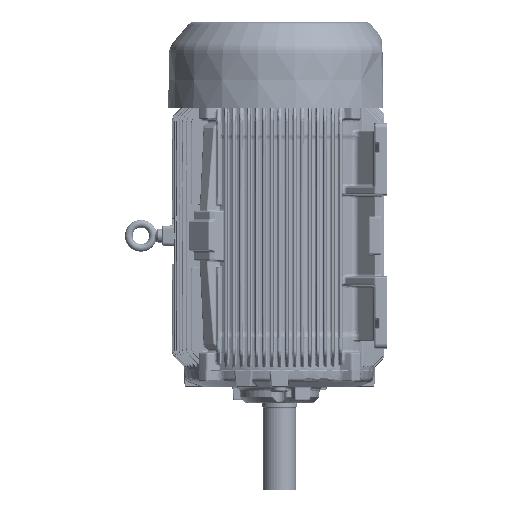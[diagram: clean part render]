
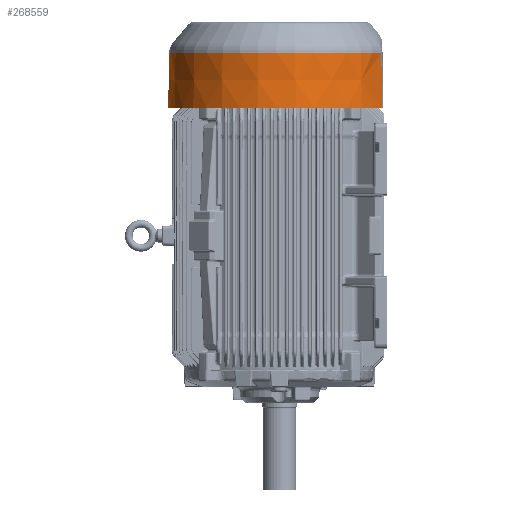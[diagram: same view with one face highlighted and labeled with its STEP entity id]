
A CAD part, left-side view. The second image highlights one B-rep face of the part: STEP entity #268559.
In plain terms, the highlighted conical face has half-angle 1 degrees and reference radius 288.053 mm.
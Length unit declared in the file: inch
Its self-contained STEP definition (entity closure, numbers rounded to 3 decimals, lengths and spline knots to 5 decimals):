
#261610=CARTESIAN_POINT('',(-4.4053,-10.50316,0.));
#261622=CARTESIAN_POINT('',(4.4053,-10.50316,0.));
#261628=CARTESIAN_POINT('',(-4.38861,-10.40404,
-5.60515));
#261629=CARTESIAN_POINT('',(-4.38989,-10.41162,
-5.17622));
#261630=CARTESIAN_POINT('',(-4.3925,-10.42706,
-4.30305));
#261631=CARTESIAN_POINT('',(-4.39649,-10.45079,
-2.96156));
#261632=CARTESIAN_POINT('',(-4.4007,-10.47582,
-1.54612));
#261633=CARTESIAN_POINT('',(-4.40373,-10.49385,
-0.52655));
#261634=CARTESIAN_POINT('',(-4.4053,-10.50316,0.));
#261636=CARTESIAN_POINT('',(-4.38861,-10.40404,
-5.60515));
#261637=CARTESIAN_POINT('',(-4.38884,-10.40394,
-5.60527));
#261638=CARTESIAN_POINT('',(-4.38935,-10.40372,
-5.60548));
#261639=CARTESIAN_POINT('',(-4.39028,-10.40332,
-5.6058));
#261640=CARTESIAN_POINT('',(-4.39142,-10.40283,
-5.60605));
#261641=CARTESIAN_POINT('',(-4.39279,-10.40225,
-5.60622));
#261642=CARTESIAN_POINT('',(-4.3939,-10.40178,
-5.60627));
#261643=CARTESIAN_POINT('',(-4.3945,-10.40153,
-5.60627));
#261645=CARTESIAN_POINT('',(0.,0.,-5.60627));
#261646=DIRECTION('',(0.,0.,-1.));
#261647=DIRECTION('',(-0.389,-0.921,0.));
#261648=AXIS2_PLACEMENT_3D('',#261645,#261646,#261647);
#261650=CARTESIAN_POINT('',(4.38861,-10.40404,
-5.60515));
#261651=CARTESIAN_POINT('',(4.38883,-10.40394,
-5.60528));
#261652=CARTESIAN_POINT('',(4.38935,-10.40372,
-5.60549));
#261653=CARTESIAN_POINT('',(4.39028,-10.40332,
-5.60581));
#261654=CARTESIAN_POINT('',(4.39143,-10.40283,
-5.60606));
#261655=CARTESIAN_POINT('',(4.39278,-10.40226,
-5.60623));
#261656=CARTESIAN_POINT('',(4.39395,-10.40176,
-5.60627));
#261657=CARTESIAN_POINT('',(4.39444,-10.40156,
-5.60627));
#261659=CARTESIAN_POINT('',(4.4053,-10.50316,0.));
#261660=CARTESIAN_POINT('',(4.40402,-10.49554,
-0.43077));
#261661=CARTESIAN_POINT('',(4.40142,-10.48005,
-1.30686));
#261662=CARTESIAN_POINT('',(4.39742,-10.45633,
-2.64795));
#261663=CARTESIAN_POINT('',(4.3932,-10.43125,
-4.0661));
#261664=CARTESIAN_POINT('',(4.39017,-10.4133,
-5.08152));
#261665=CARTESIAN_POINT('',(4.38861,-10.40404,
-5.60515));
#261667=CARTESIAN_POINT('',(0.,0.,0.));
#261668=DIRECTION('',(0.,0.,1.));
#261669=DIRECTION('',(0.387,-0.922,0.));
#261670=AXIS2_PLACEMENT_3D('',#261667,#261668,#261669);
#266364=VERTEX_POINT('',#261610);
#266367=VERTEX_POINT('',#261628);
#266374=VERTEX_POINT('',#261622);
#266375=VERTEX_POINT('',#261665);
#266376=CARTESIAN_POINT('',(-4.3945,-10.40153,
-5.60627));
#266377=CARTESIAN_POINT('',(4.39429,-10.40162,
-5.60627));
#266378=VERTEX_POINT('',#266376);
#266379=VERTEX_POINT('',#266377);
#268544=CARTESIAN_POINT('',(0.,0.,-2.80313));
#268545=DIRECTION('',(0.,0.,1.));
#268546=DIRECTION('',(0.,1.,0.));
#268547=AXIS2_PLACEMENT_3D('',#268544,#268545,#268546);
#268548=CONICAL_SURFACE('',#268547,11.34067,1.);
#268549=ORIENTED_EDGE('',*,*,#268525,.F.);
#268550=ORIENTED_EDGE('',*,*,#268389,.T.);
#268551=ORIENTED_EDGE('',*,*,#268407,.T.);
#268553=ORIENTED_EDGE('',*,*,#268552,.F.);
#268555=ORIENTED_EDGE('',*,*,#268554,.F.);
#268556=ORIENTED_EDGE('',*,*,#268536,.T.);
#268557=EDGE_LOOP('',(#268549,#268550,#268551,#268553,#268555,#268556));
#268558=FACE_OUTER_BOUND('',#268557,.F.);
#268559=ADVANCED_FACE('',(#268558),#268548,.T.);
#261635=B_SPLINE_CURVE_WITH_KNOTS('',3,(#261628,#261629,#261630,#261631,#261632,
#261633,#261634),.UNSPECIFIED.,.F.,.F.,(4,1,1,1,4),(0.,0.25,0.5,0.75,
1.),.UNSPECIFIED.);
#261644=B_SPLINE_CURVE_WITH_KNOTS('',3,(#261636,#261637,#261638,#261639,#261640,
#261641,#261642,#261643),.UNSPECIFIED.,.F.,.F.,(4,1,1,1,1,4),(0.,0.2,0.4,
0.6,0.8,1.),.UNSPECIFIED.);
#261649=CIRCLE('',#261648,11.29174);
#261658=B_SPLINE_CURVE_WITH_KNOTS('',3,(#261650,#261651,#261652,#261653,#261654,
#261655,#261656,#261657),.UNSPECIFIED.,.F.,.F.,(4,1,1,1,1,4),(0.,0.2,0.4,
0.6,0.8,1.),.UNSPECIFIED.);
#261666=B_SPLINE_CURVE_WITH_KNOTS('',3,(#261659,#261660,#261661,#261662,#261663,
#261664,#261665),.UNSPECIFIED.,.F.,.F.,(4,1,1,1,4),(0.,0.25,0.5,0.75,
1.),.UNSPECIFIED.);
#261671=CIRCLE('',#261670,11.3896);
#268389=EDGE_CURVE('',#266367,#266378,#261644,.T.);
#268407=EDGE_CURVE('',#266378,#266379,#261649,.T.);
#268525=EDGE_CURVE('',#266367,#266364,#261635,.T.);
#268536=EDGE_CURVE('',#266374,#266364,#261671,.T.);
#268552=EDGE_CURVE('',#266375,#266379,#261658,.T.);
#268554=EDGE_CURVE('',#266374,#266375,#261666,.T.);
